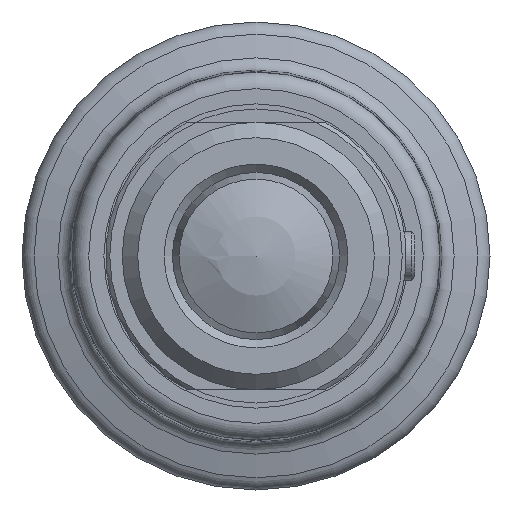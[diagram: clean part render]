
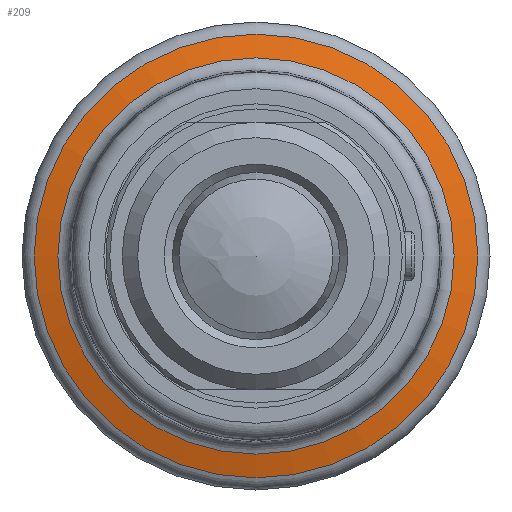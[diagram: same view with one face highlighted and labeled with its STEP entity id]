
A CAD part, left-side view. The second image highlights one B-rep face of the part: STEP entity #209.
In plain terms, the highlighted conical face has half-angle 74.478 degrees and reference radius 13.274 mm.
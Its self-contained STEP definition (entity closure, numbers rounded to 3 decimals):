
#209 = ADVANCED_FACE( '', ( #340, #341 ), #342, .T. );
#340 = FACE_BOUND( '', #493, .T. );
#341 = FACE_OUTER_BOUND( '', #494, .T. );
#342 = CONICAL_SURFACE( '', #495, 13.274, 1.3 );
#493 = EDGE_LOOP( '', ( #763 ) );
#494 = EDGE_LOOP( '', ( #764 ) );
#495 = AXIS2_PLACEMENT_3D( '', #765, #766, #767 );
#763 = ORIENTED_EDGE( '', *, *, #882, .F. );
#764 = ORIENTED_EDGE( '', *, *, #881, .T. );
#765 = CARTESIAN_POINT( '', ( 8.125, 0., 0. ) );
#766 = DIRECTION( '', ( -1., 0., 0. ) );
#767 = DIRECTION( '', ( 0., 0., 1. ) );
#881 = EDGE_CURVE( '', #998, #998, #999, .T. );
#882 = EDGE_CURVE( '', #1000, #1000, #1001, .T. );
#998 = VERTEX_POINT( '', #1462 );
#999 = CIRCLE( '', #1463, 13.274 );
#1000 = VERTEX_POINT( '', #1464 );
#1001 = CIRCLE( '', #1465, 11.853 );
#1462 = CARTESIAN_POINT( '', ( 8.125, 0., -13.274 ) );
#1463 = AXIS2_PLACEMENT_3D( '', #1597, #1598, #1599 );
#1464 = CARTESIAN_POINT( '', ( 8.52, 0., -11.853 ) );
#1465 = AXIS2_PLACEMENT_3D( '', #1600, #1601, #1602 );
#1597 = CARTESIAN_POINT( '', ( 8.125, 0., 0. ) );
#1598 = DIRECTION( '', ( 1., 0., 0. ) );
#1599 = DIRECTION( '', ( 0., 0., -1. ) );
#1600 = CARTESIAN_POINT( '', ( 8.52, 0., 0. ) );
#1601 = DIRECTION( '', ( 1., 0., 0. ) );
#1602 = DIRECTION( '', ( 0., 0., -1. ) );
